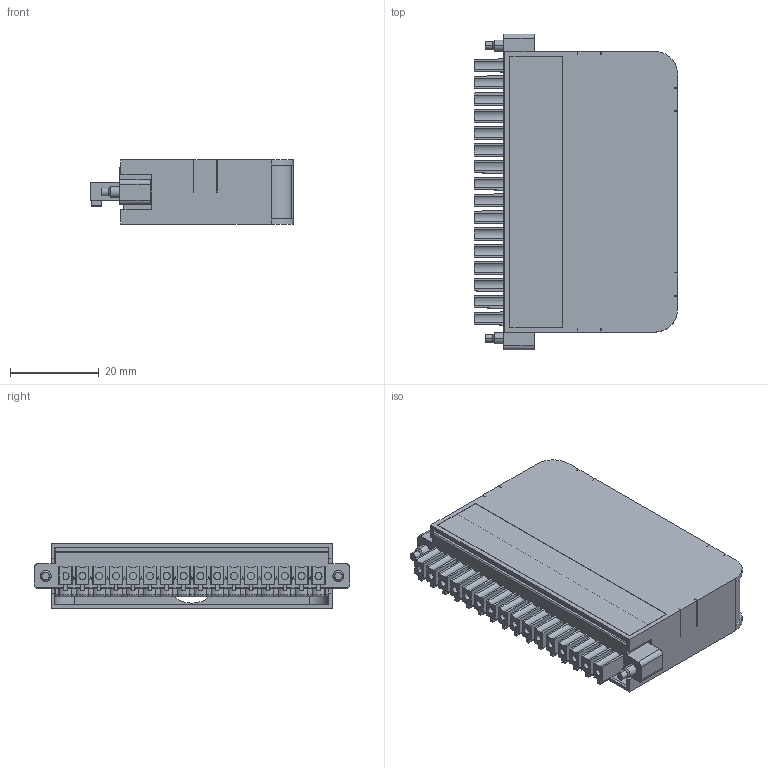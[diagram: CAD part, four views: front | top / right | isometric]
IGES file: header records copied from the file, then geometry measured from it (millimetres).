
Start section:  PTC IGES file: cu_usb_conn_16pos.igs
Global section: file name: cu_usb_conn_16pos.igs; native system: Pro/ENGINEER by Parametric Technology Corporation; preprocessor: 2006080; author: jpearson; organization: Unknown; date: 070828.171034; units: inch
Bounding box: 45.87 x 71.35 x 14.5 mm (x, y, z)
Surface area: 19215.8 mm2 (no closed solid volume)
Topology: 0 solids, 0 shells, 1168 faces, 6524 edges, 6509 vertices
Faces by surface type: bspline 742, revolution 426
